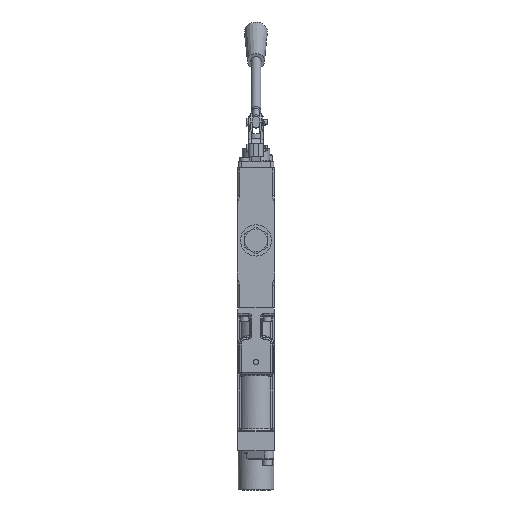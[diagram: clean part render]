
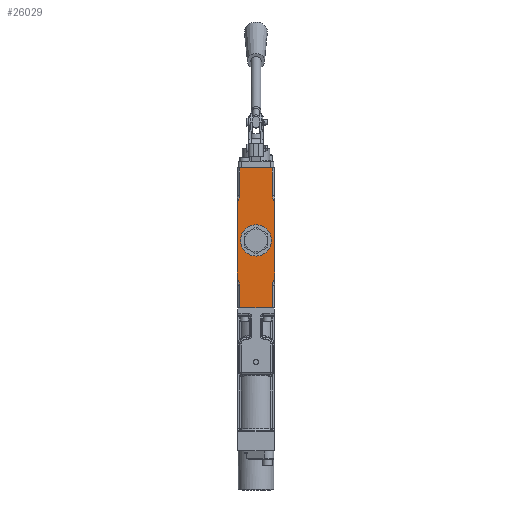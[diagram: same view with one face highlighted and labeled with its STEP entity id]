
A CAD part, front view. The second image highlights one B-rep face of the part: STEP entity #26029.
In plain terms, the highlighted planar face has unit normal (0, -1, 0).
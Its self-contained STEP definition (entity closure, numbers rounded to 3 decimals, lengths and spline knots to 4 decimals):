
#892=B_SPLINE_CURVE_WITH_KNOTS('',3,(#46603,#46604,#46605,#46606,#46607),
 .UNSPECIFIED.,.F.,.F.,(4,1,4),(0.1671,0.5044,0.9541),
 .UNSPECIFIED.);
#897=B_SPLINE_CURVE_WITH_KNOTS('',3,(#46790,#46791,#46792,#46793,#46794),
 .UNSPECIFIED.,.F.,.F.,(4,1,4),(0.1671,0.6168,0.9541),
 .UNSPECIFIED.);
#1010=B_SPLINE_CURVE_WITH_KNOTS('',3,(#48815,#48816,#48817,#48818,#48819),
 .UNSPECIFIED.,.F.,.F.,(4,1,4),(0.,0.3373,
0.787),.UNSPECIFIED.);
#1013=B_SPLINE_CURVE_WITH_KNOTS('',3,(#48870,#48871,#48872,#48873,#48874),
 .UNSPECIFIED.,.F.,.F.,(4,1,4),(0.,0.3373,0.787),
 .UNSPECIFIED.);
#1363=FACE_BOUND('',#5307,.T.);
#1921=PLANE('',#28527);
#3471=FACE_OUTER_BOUND('',#5306,.T.);
#5306=EDGE_LOOP('',(#21676,#21677,#21678,#21679,#21680,#21681,#21682,#21683,
#21684,#21685,#21686,#21687));
#5307=EDGE_LOOP('',(#21688));
#6639=LINE('',#45783,#8196);
#6682=LINE('',#46612,#8239);
#6684=LINE('',#46797,#8241);
#6895=LINE('',#49112,#8452);
#6912=LINE('',#49196,#8469);
#6914=LINE('',#49205,#8471);
#6946=LINE('',#49362,#8503);
#6966=LINE('',#49678,#8523);
#8196=VECTOR('',#33328,1.251);
#8239=VECTOR('',#33561,1.0389);
#8241=VECTOR('',#33583,0.8509);
#8452=VECTOR('',#34292,2.8677);
#8469=VECTOR('',#34357,0.8509);
#8471=VECTOR('',#34367,1.0389);
#8503=VECTOR('',#34521,2.8677);
#8523=VECTOR('',#34717,1.251);
#9840=CIRCLE('',#28528,0.594);
#11416=VERTEX_POINT('',#45780);
#11417=VERTEX_POINT('',#45782);
#11513=VERTEX_POINT('',#46595);
#11514=VERTEX_POINT('',#46602);
#11515=VERTEX_POINT('',#46610);
#11519=VERTEX_POINT('',#46782);
#11520=VERTEX_POINT('',#46789);
#11806=VERTEX_POINT('',#48806);
#11807=VERTEX_POINT('',#48813);
#11812=VERTEX_POINT('',#48861);
#11813=VERTEX_POINT('',#48868);
#11868=VERTEX_POINT('',#49202);
#11967=VERTEX_POINT('',#49679);
#14476=EDGE_CURVE('',#11416,#11417,#6639,.T.);
#14612=EDGE_CURVE('',#11513,#11514,#892,.T.);
#14615=EDGE_CURVE('',#11514,#11515,#6682,.T.);
#14626=EDGE_CURVE('',#11519,#11520,#897,.T.);
#14628=EDGE_CURVE('',#11520,#11416,#6684,.T.);
#15055=EDGE_CURVE('',#11807,#11806,#1010,.T.);
#15064=EDGE_CURVE('',#11813,#11812,#1013,.T.);
#15106=EDGE_CURVE('',#11806,#11513,#6895,.T.);
#15146=EDGE_CURVE('',#11417,#11807,#6912,.T.);
#15150=EDGE_CURVE('',#11868,#11813,#6914,.T.);
#15220=EDGE_CURVE('',#11812,#11519,#6946,.T.);
#15297=EDGE_CURVE('',#11515,#11868,#6966,.T.);
#15298=EDGE_CURVE('',#11967,#11967,#9840,.T.);
#21676=ORIENTED_EDGE('',*,*,#14476,.F.);
#21677=ORIENTED_EDGE('',*,*,#14628,.F.);
#21678=ORIENTED_EDGE('',*,*,#14626,.F.);
#21679=ORIENTED_EDGE('',*,*,#15220,.F.);
#21680=ORIENTED_EDGE('',*,*,#15064,.F.);
#21681=ORIENTED_EDGE('',*,*,#15150,.F.);
#21682=ORIENTED_EDGE('',*,*,#15297,.F.);
#21683=ORIENTED_EDGE('',*,*,#14615,.F.);
#21684=ORIENTED_EDGE('',*,*,#14612,.F.);
#21685=ORIENTED_EDGE('',*,*,#15106,.F.);
#21686=ORIENTED_EDGE('',*,*,#15055,.F.);
#21687=ORIENTED_EDGE('',*,*,#15146,.F.);
#21688=ORIENTED_EDGE('',*,*,#15298,.T.);
#26029=ADVANCED_FACE('',(#3471,#1363),#1921,.T.);
#28527=AXIS2_PLACEMENT_3D('',#49677,#34715,#34716);
#28528=AXIS2_PLACEMENT_3D('',#49680,#34718,#34719);
#33328=DIRECTION('',(-1.,0.,0.));
#33561=DIRECTION('',(0.,0.,1.));
#33583=DIRECTION('',(0.,0.,-1.));
#34292=DIRECTION('',(0.,0.,1.));
#34357=DIRECTION('',(0.,0.,1.));
#34367=DIRECTION('',(0.,0.,-1.));
#34521=DIRECTION('',(0.,0.,-1.));
#34715=DIRECTION('center_axis',(0.,-1.,0.));
#34716=DIRECTION('ref_axis',(0.,0.,-1.));
#34717=DIRECTION('',(1.,0.,0.));
#34718=DIRECTION('center_axis',(0.,1.,0.));
#34719=DIRECTION('ref_axis',(1.,0.,0.));
#45780=CARTESIAN_POINT('',(0.6255,-1.656,-5.438));
#45782=CARTESIAN_POINT('',(-0.6255,-1.656,-5.438));
#45783=CARTESIAN_POINT('',(-0.6938,-1.656,-5.438));
#46595=CARTESIAN_POINT('',(-0.7185,-1.656,-1.4261));
#46602=CARTESIAN_POINT('',(-0.6255,-1.656,-1.1329));
#46603=CARTESIAN_POINT('Ctrl Pts',(-0.7185,-1.656,-1.4261));
#46604=CARTESIAN_POINT('Ctrl Pts',(-0.6981,-1.656,-1.3867));
#46605=CARTESIAN_POINT('Ctrl Pts',(-0.6532,-1.656,-1.294));
#46606=CARTESIAN_POINT('Ctrl Pts',(-0.6255,-1.656,-1.1919));
#46607=CARTESIAN_POINT('Ctrl Pts',(-0.6255,-1.656,-1.1329));
#46610=CARTESIAN_POINT('',(-0.6255,-1.656,-0.094));
#46612=CARTESIAN_POINT('',(-0.6255,-1.656,0.));
#46782=CARTESIAN_POINT('',(0.7185,-1.656,-4.2939));
#46789=CARTESIAN_POINT('',(0.6255,-1.656,-4.5871));
#46790=CARTESIAN_POINT('Ctrl Pts',(0.7185,-1.656,-4.2939));
#46791=CARTESIAN_POINT('Ctrl Pts',(0.6914,-1.656,-4.3465));
#46792=CARTESIAN_POINT('Ctrl Pts',(0.6468,-1.656,-4.4398));
#46793=CARTESIAN_POINT('Ctrl Pts',(0.6255,-1.656,-4.5429));
#46794=CARTESIAN_POINT('Ctrl Pts',(0.6255,-1.656,-4.5871));
#46797=CARTESIAN_POINT('',(0.6255,-1.656,0.));
#48806=CARTESIAN_POINT('',(-0.7185,-1.656,-4.2939));
#48813=CARTESIAN_POINT('',(-0.6255,-1.656,-4.5871));
#48815=CARTESIAN_POINT('Ctrl Pts',(-0.6255,-1.656,-4.5871));
#48816=CARTESIAN_POINT('Ctrl Pts',(-0.6255,-1.656,-4.5429));
#48817=CARTESIAN_POINT('Ctrl Pts',(-0.6468,-1.656,-4.4398));
#48818=CARTESIAN_POINT('Ctrl Pts',(-0.6914,-1.656,-4.3465));
#48819=CARTESIAN_POINT('Ctrl Pts',(-0.7185,-1.656,-4.2939));
#48861=CARTESIAN_POINT('',(0.7185,-1.656,-1.4261));
#48868=CARTESIAN_POINT('',(0.6255,-1.656,-1.1329));
#48870=CARTESIAN_POINT('Ctrl Pts',(0.6255,-1.656,-1.1329));
#48871=CARTESIAN_POINT('Ctrl Pts',(0.6255,-1.656,-1.1771));
#48872=CARTESIAN_POINT('Ctrl Pts',(0.6468,-1.656,-1.2802));
#48873=CARTESIAN_POINT('Ctrl Pts',(0.6914,-1.656,-1.3735));
#48874=CARTESIAN_POINT('Ctrl Pts',(0.7185,-1.656,-1.4261));
#49112=CARTESIAN_POINT('',(-0.7185,-1.656,0.));
#49196=CARTESIAN_POINT('',(-0.6255,-1.656,0.));
#49202=CARTESIAN_POINT('',(0.6255,-1.656,-0.094));
#49205=CARTESIAN_POINT('',(0.6255,-1.656,0.));
#49362=CARTESIAN_POINT('',(0.7185,-1.656,0.));
#49677=CARTESIAN_POINT('Origin',(-0.6875,-1.656,0.));
#49678=CARTESIAN_POINT('',(-0.703,-1.656,-0.094));
#49679=CARTESIAN_POINT('',(0.,-1.656,-3.454));
#49680=CARTESIAN_POINT('Origin',(0.,-1.656,-2.86));
